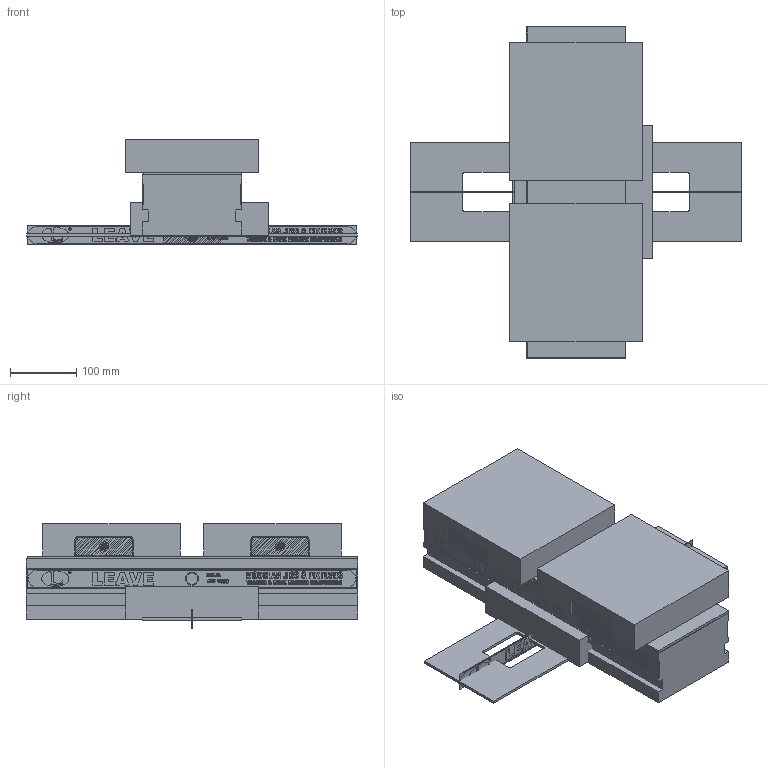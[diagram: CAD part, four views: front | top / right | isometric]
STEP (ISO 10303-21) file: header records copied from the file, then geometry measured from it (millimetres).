
FILE_DESCRIPTION( ( 'Unknown' ), '1' );
FILE_NAME( 's:/Solid Edge/給客戶的CD-3D/ALV-3D/ALV-1550/ALV-1550-組件/ALV-1550-1W.stp', 'Unknown', ( 'S.C.H' ), ( 'Unknown' ), 'XStep 1.0', 'Unknown', ' ' );
FILE_SCHEMA( ( 'CONFIG_CONTROL_DESIGN' ) );
Length unit declared in the file: millimetre
Products named in the file (8): Assem1; Assem2; Assem3; 1; 2; 3; 4; 5
Bounding box: 498 x 500 x 158 mm (x, y, z)
Volume: 28068717.3 mm3; surface area: 1907990.1 mm2
Topology: 21 solids, 21 shells, 7679 faces, 20436 edges, 13620 vertices
Faces by surface type: plane 4779, extrusion 1560, cylinder 1324, torus 16
Full cylindrical faces by diameter (mm): 3.511 x5, 3.673 x5, 12 x18, 17.5 x5, 19.5 x5, 20 x6
Entity records: 51195 total; most frequent: CARTESIAN_POINT 13897, ORIENTED_EDGE 8008, DIRECTION 6630, EDGE_CURVE 4004, VECTOR 3162, LINE 2850, VERTEX_POINT 2676, AXIS2_PLACEMENT_3D 1734
